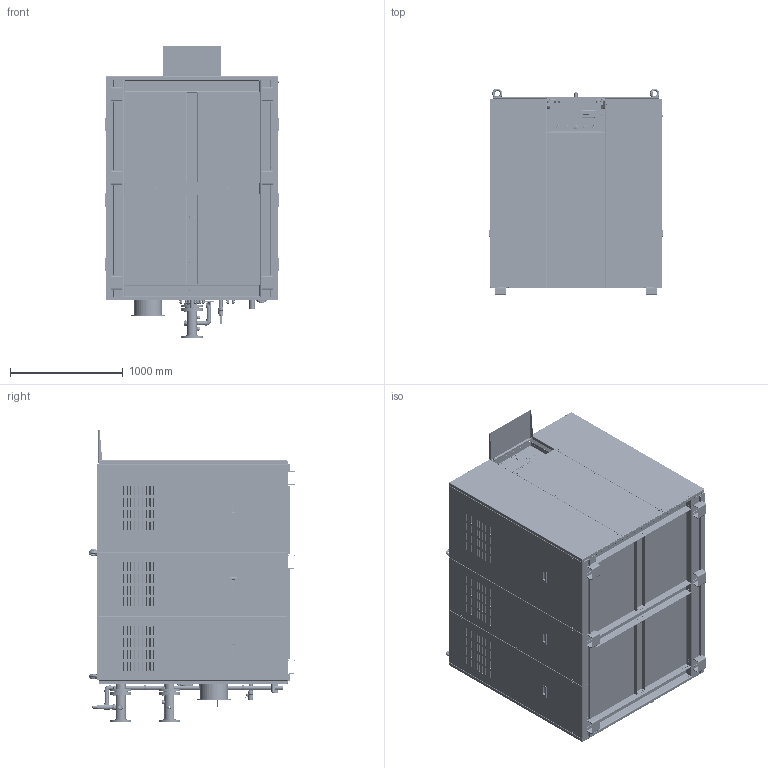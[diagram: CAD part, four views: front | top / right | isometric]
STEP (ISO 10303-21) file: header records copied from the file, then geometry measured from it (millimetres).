
FILE_DESCRIPTION (( 'STEP AP214' ), '1' );
FILE_NAME ('CBRP-SC1-V1.STEP', '2024-04-17T11:53:08', ( '' ), ( '' ), 'SwSTEP 2.0', 'SolidWorks 2020', '' );
FILE_SCHEMA (( 'AUTOMOTIVE_DESIGN' ));
Length unit declared in the file: millimetre
Products named in the file (131): CBRP-SC1-V1-06-06; CBRP-SC1-V1-63; eyebolt580_din1_Eyebolt DIN 358-M24-N; CBRP-SC1-V1-31-03; CBRP-SC1-V1-06-05; CBRP-SC1-V1-71-06; CBRP-SC1-V1; CBRP-SC1-V1-52-08; CBRP-SC1-V1-01-05; CBRP-SC1-V1-71-03; CBRP-SC1-V1-01-02; CBRP-SC1-V1-14; CBRP-SC1-V1-12; CBRP-SC1-V1-52-05; CBRP-SC1-V1-04; CBRP-SC1-V1-06; CBRP-SC1-V1-06-02; CBRP-SC1-V1-03; CBRP-SC1-V1-62-03; CBRP-SC1-V1-74-16; CBRP-SC1-V1-53; hex head structural bolt_din_DIN 7990 - M16 x 80-WN; CBRP-SC1-V1-57-01; CBRP-SC1-V1-75-03; CBRP-SC1-V1-74-15; CBRP-SC1-V1-11-05; CBRP-SC1-V1-74-04; CBRP-SC1-V1-31-09; CBRP-SC1-V1-62-04; hex nut style 1 gradeab_din_Hexagon Nut ISO 4032 - M16 - W - N; CBRP-SC1-V1-62-05; CBRP-SC1-V1-72-01; CBRP-SC1-V1-52; curved spring lock washer_din_Spring washer DIN 128 - A16; CBRP-SC1-V1-71-04; CBRP-SC1-V1-62-02; CBRP-SC1-V1-74-12; CBRP-SC1-V1-76-01; CBRP-SC1-V1-74-02; CBRP-SC1-V1-11-01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
Assembly tree (229 placements, depth 5):
  CBRP-SC1-V1
    CBRP-SC1-V1-02
      CBRP-SC1-V1-05_post mix 800 KW
        CBRP-SC1-V1-52
          CBRP-SC1-V1-52-05
          CBRP-SC1-V1-52-07
          CBRP-SC1-V1-52-08  x2
          CBRP-SC1-V1-52-11
          CBRP-SC1-V1-52-13
        CBRP-SC1-V1-53
          CBRP-SC1-V1-53-12
          CBRP-SC1-V1-52-13
        CBRP-SC1-V1-57-01
        CBRP-SC1-V1-52-07
        CBRP-SC1-V1-52-08  x2
        CBRP-SC1-V1-55_multi block gas line
          CBRP-SC1-V1-55-02_4
      CBRP-SC1-V1-03
        CBRP-SC1-V1-31
          CBRP-SC1-V1-31-02
          CBRP-SC1-V1-31-03
          CBRP-SC1-V1-31-04
          CBRP-SC1-V1-31-05
          CBRP-SC1-V1-31-06  x6
          CBRP-SC1-V1-31-07
          CBRP-SC1-V1-31-08  x2
          CBRP-SC1-V1-31-09
          CBRP-SC1-V1-31-10
          CBRP-SC1-V1-31-01
          MirrorCBRP-SC1-V1-31-03
      CBRP-SC1-V1-04
        CBRP-SC1-V1-42
          CBRP-SC1-V1-42-10
        CBRP-SC1-V1-41
          CBRP-SC1-V1-41-02  x2
          CBRP-SC1-V1-41-01
        CBRP-SC1-V1-43
          CBRP-SC1-V1-41-02
      CBRP-SC1-V1-74_front plate U300
        CBRP-SC1-V1-74-02
        CBRP-SC1-V1-74-03
        CBRP-SC1-V1-74-04
        CBRP-SC1-V1-74-05  x4
        CBRP-SC1-V1-74-06  x4
        CBRP-SC1-V1-74-07
        CBRP-SC1-V1-74-11
        CBRP-SC1-V1-74-12
        CBRP-SC1-V1-74-13
        CBRP-SC1-V1-74-14  x2
        CBRP-SC1-V1-74-15  x2
        CBRP-SC1-V1-74-16
      CBRP-SC1-V1-07
        CBRP-SC1-V1-71
          CBRP-SC1-V1-71-01
          CBRP-SC1-V1-71-02
          CBRP-SC1-V1-71-03
          CBRP-SC1-V1-71-04
          CBRP-SC1-V1-71-05
          CBRP-SC1-V1-71-06
          CBRP-SC1-V1-71-07  x4
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Bounding box: 1536.13 x 1832.5 x 2595.72 mm (x, y, z)
Volume: 61903691.9 mm3; surface area: 62817034.1 mm2
Topology: 284 solids, 353 shells, 32419 faces, 86804 edges, 55345 vertices
Faces by surface type: plane 15596, cylinder 8536, bspline 6589, cone 1072, torus 564, sphere 62
Entity records: 881139 total; most frequent: CARTESIAN_POINT 412305, ORIENTED_EDGE 104302, DIRECTION 63684, EDGE_CURVE 52290, VERTEX_POINT 33427, B_SPLINE_CURVE_WITH_KNOTS 24687, EDGE_LOOP 22565, AXIS2_PLACEMENT_3D 22096
